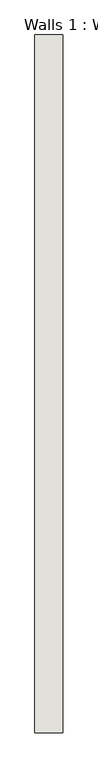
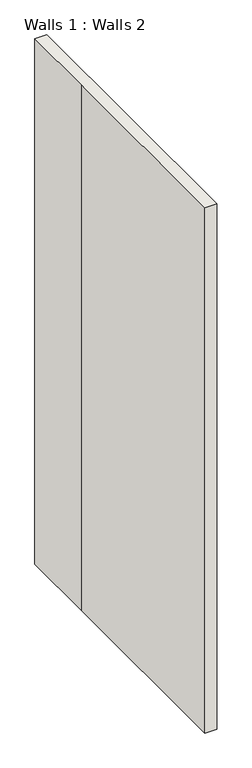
"""IFC4 building model written with IfcOpenShell, lengths in millimetres: wall geometry, Walls 1 : Walls 2."""

from ifc_helpers import new_model, si_unit, frame, origin, place, context, project, spatial, polyline, outline, extrude, source, transform, mapped, element, save


def walls_1_walls_2_56729b8b(model_context):
    return source(origin(), model_context, "Body", "SweptSolid", [
        extrude(outline(polyline([(8321.7863472, 1678.7490616), (8279.6525968, 1678.7490616), (8279.6525968, 2446.4072164), (8279.6525968, 2733.8051904), (8321.7863472, 2733.8051904), (8321.7863472, 1678.7490616)])), frame((0.0, 0.0, 429.8090256), z_axis=(0.0, 0.0, 1.0), x_axis=(1.0, 0.0, 0.0)), (0.0, 0.0, 1.0), 1991.0),
    ])


if __name__ == "__main__":
    model = new_model("IFC4")
    model_context = context("Model", 3, world=origin())
    ifc_project = project(units=[si_unit("LENGTHUNIT", "METRE", prefix="MILLI")], contexts=[model_context])
    site = spatial("IfcSite", under=ifc_project)
    building = spatial("IfcBuilding", under=site)
    placement = place(None, origin())
    walls_1_walls_2_shape = walls_1_walls_2_56729b8b(model_context)
    element("IfcWall", 1, ObjectType="Walls 1 : Walls 2", at=placement, inside=building, context=model_context, shape_type="MappedRepresentation", body=[
        mapped(walls_1_walls_2_shape, transform((0.0, 0.0, 0.0), x_axis=(1.0, 0.0, 0.0), y_axis=(0.0, 1.0, 0.0), z_axis=(0.0, 0.0, 1.0))),
    ])
    save(model, "model.ifc")
